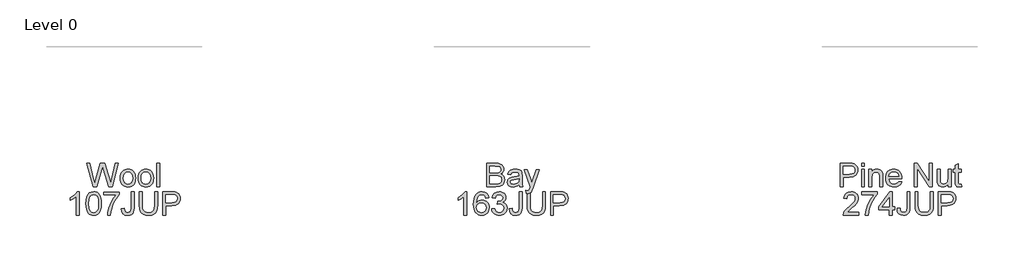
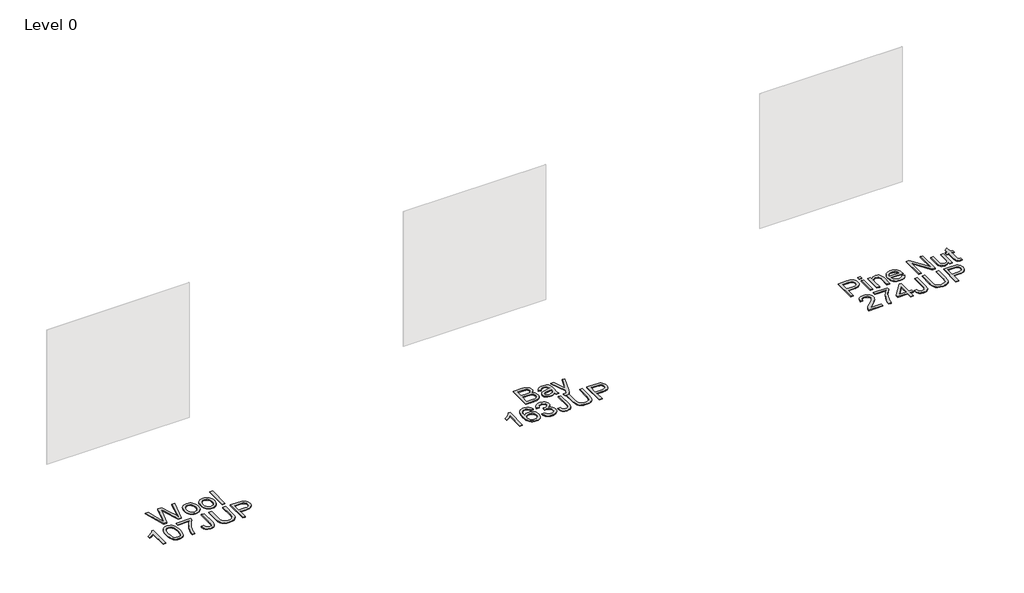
# One storey, part 25 of 37: 3 proxies.
"""IFC4 building model written with IfcOpenShell, lengths in millimetres."""

import ifcopenshell
import ifcopenshell.guid

model = None  # the IFC model being written
_history = None  # IfcOwnerHistory: only IFC2X3 demands one
_inside = {}  # id of a spatial element -> (the spatial element, [elements in it])
_under = {}  # id of a project, library or spatial element -> (it, [spatial elements below it])
_declared = {}  # id of a project -> (the project, [libraries it declares])
_typed = {}  # id of a type object -> (the type object, [elements of that type])
_made_of = {}  # id of a material, layer set ... -> (it, [elements and type objects made of it])


def new_model(schema):
    """Start an empty IFC model of exactly this schema.

    Asked for "IFC4X3", IfcOpenShell would pick the latest addendum, in which some entities
    have other attributes; the version numbers below select the first issue.
    IFC2X3 requires an IfcOwnerHistory on every rooted entity: one is made here for all.
    """
    global model, _history
    if schema == "IFC4X3":
        model = ifcopenshell.file(schema_version=(4, 3, 0, 0))
    else:
        model = ifcopenshell.file(schema=schema)
    _inside.clear()
    _under.clear()
    _declared.clear()
    _typed.clear()
    _made_of.clear()
    _history = None
    if model.schema == "IFC2X3":
        org = make("IfcOrganization", Name="unknown")
        user = make(
            "IfcPersonAndOrganization",
            ThePerson=make("IfcPerson", FamilyName="unknown"),
            TheOrganization=org,
        )
        app = make(
            "IfcApplication",
            ApplicationDeveloper=org,
            Version="unknown",
            ApplicationFullName="unknown",
            ApplicationIdentifier="unknown",
        )
        _history = make(
            "IfcOwnerHistory",
            OwningUser=user,
            OwningApplication=app,
            ChangeAction="ADDED",
            CreationDate=0,
        )
    return model


def make(cls, **values):
    """One entity of the class cls with the attributes given. An attribute that is None is left unset."""
    return model.create_entity(
        cls, **{name: value for name, value in values.items() if value is not None}
    )


def rooted(cls, **values):
    """An entity with a GlobalId (a new one), such as an element, a storey or a relation."""
    return make(cls, GlobalId=ifcopenshell.guid.new(), OwnerHistory=_history, **values)


def si_unit(unit_type, name, prefix=None):
    """IfcSIUnit, for example si_unit("LENGTHUNIT", "METRE", prefix="MILLI")."""
    return make("IfcSIUnit", UnitType=unit_type, Prefix=prefix, Name=name)


def assignment(units):
    """IfcUnitAssignment: the units of a project."""
    return None if units is None else make("IfcUnitAssignment", Units=units)


def point(xyz):
    """IfcCartesianPoint."""
    return None if xyz is None else make("IfcCartesianPoint", Coordinates=xyz)


def direction(xyz):
    """IfcDirection."""
    return None if xyz is None else make("IfcDirection", DirectionRatios=xyz)


def frame(location, z_axis=None, x_axis=None):
    """IfcAxis2Placement3D, a coordinate frame: its origin and axes. An axis left out is left unset."""
    return make(
        "IfcAxis2Placement3D",
        Location=point(location),
        Axis=direction(z_axis),
        RefDirection=direction(x_axis),
    )


def origin():
    """The frame at (0, 0, 0) with its axes left unset."""
    return frame((0.0, 0.0, 0.0))


def origin_with_axes():
    """The frame at (0, 0, 0) with the z axis (0, 0, 1) and the x axis (1, 0, 0) written out."""
    return frame((0.0, 0.0, 0.0), z_axis=(0.0, 0.0, 1.0), x_axis=(1.0, 0.0, 0.0))


def place(relative_to, where):
    """IfcLocalPlacement: puts the frame where relative to a parent placement (None: the world)."""
    return make(
        "IfcLocalPlacement", PlacementRelTo=relative_to, RelativePlacement=where
    )


def context(
    kind, dimensions, precision=None, world=None, true_north=None, identifier=None
):
    """IfcGeometricRepresentationContext, for example the 3D "Model" context."""
    return make(
        "IfcGeometricRepresentationContext",
        ContextIdentifier=identifier,
        ContextType=kind,
        CoordinateSpaceDimension=dimensions,
        Precision=precision,
        WorldCoordinateSystem=world,
        TrueNorth=true_north,
    )


def project(units=None, contexts=None):
    """IfcProject with its units and contexts."""
    return rooted(
        "IfcProject",
        Name="project",
        RepresentationContexts=contexts,
        UnitsInContext=assignment(units),
    )


def spatial(cls, under=None, at=None, **own):
    """A site, building, storey or space (cls), placed at a placement, below another one or the project."""
    s = rooted(cls, ObjectPlacement=at, **own)
    if under is not None:
        _under.setdefault(under.id(), (under, []))[1].append(s)
    return s


def polyline(points):
    """IfcPolyline through the points."""
    return make("IfcPolyline", Points=[point(p) for p in points])


def outline(outer, holes=None, kind="AREA"):
    """IfcArbitraryClosedProfileDef: a profile drawn as a closed curve; with holes, ...WithVoids."""
    if holes is None:
        return make("IfcArbitraryClosedProfileDef", ProfileType=kind, OuterCurve=outer)
    return make(
        "IfcArbitraryProfileDefWithVoids",
        ProfileType=kind,
        OuterCurve=outer,
        InnerCurves=holes,
    )


def extrude(swept, where, along, depth):
    """IfcExtrudedAreaSolid: the profile swept, set in the frame where, extruded along a direction by depth."""
    return make(
        "IfcExtrudedAreaSolid",
        SweptArea=swept,
        Position=where,
        ExtrudedDirection=direction(along),
        Depth=depth,
    )


def shape(context_of_items, identifier, shape_type, items):
    """IfcShapeRepresentation: the items that make up one representation, for example the "Body"."""
    return make(
        "IfcShapeRepresentation",
        ContextOfItems=context_of_items,
        RepresentationIdentifier=identifier,
        RepresentationType=shape_type,
        Items=items,
    )


def made_of(thing, what):
    """Note that an element or type object is made of a material, layer set ...; save() writes the relation."""
    if what is not None:
        _made_of.setdefault(what.id(), (what, []))[1].append(thing)
    return thing


def element(
    cls,
    number,
    at=None,
    inside=None,
    cuts=None,
    type_object=None,
    material=None,
    context=None,
    identifier="Body",
    shape_type=None,
    held_by="IfcProductDefinitionShape",
    body=None,
    shapes=None,
    **own,
):
    """One element of the class cls, such as IfcWall. Its Tag is "e" and its number.

    at: its placement. inside: the storey or other place that contains it. cuts: it is an
    opening in that element (IfcRelVoidsElement). A single representation is given by context,
    identifier, shape_type and body (its items); several are given by shapes. held_by: the class
    of the entity that holds the representations. save() writes the other relations.
    """
    e = rooted(cls, Tag="e%d" % number, ObjectPlacement=at, **own)
    if body is not None:
        shapes = [shape(context, identifier, shape_type, body)]
    if shapes is not None:
        e.Representation = make(held_by, Representations=shapes)
    if inside is not None:
        _inside.setdefault(inside.id(), (inside, []))[1].append(e)
    if cuts is not None:
        rooted(
            "IfcRelVoidsElement", RelatingBuildingElement=cuts, RelatedOpeningElement=e
        )
    if type_object is not None:
        _typed.setdefault(type_object.id(), (type_object, []))[1].append(e)
    return made_of(e, material)


def aggregate(whole, parts):
    """IfcRelAggregates: a whole, such as a stair, and the parts it consists of."""
    return rooted("IfcRelAggregates", RelatingObject=whole, RelatedObjects=parts)


def save(model, path):
    """Write the relations noted so far, then the file.

    IfcRelAggregates (storeys below a building ...), IfcRelContainedInSpatialStructure (elements
    in a storey), IfcRelDefinesByType, IfcRelAssociatesMaterial and IfcRelDeclares: one each for
    every whole, place, type object, material and project.
    """
    for whole, parts in _under.values():
        aggregate(whole, parts)
    for where, things in _inside.values():
        rooted(
            "IfcRelContainedInSpatialStructure",
            RelatedElements=things,
            RelatingStructure=where,
        )
    for kind, things in _typed.values():
        rooted("IfcRelDefinesByType", RelatedObjects=things, RelatingType=kind)
    for what, things in _made_of.values():
        rooted("IfcRelAssociatesMaterial", RelatedObjects=things, RelatingMaterial=what)
    for by, libraries in _declared.values():
        rooted("IfcRelDeclares", RelatingContext=by, RelatedDefinitions=libraries)
    model.write(path)


model = new_model("IFC4")

# Units and contexts
model_context = context("Model", 3, world=origin())
ifc_project = project(units=[si_unit("LENGTHUNIT", "METRE", prefix="MILLI")], contexts=[model_context])

# Site, building, storey
site = spatial("IfcSite", under=ifc_project)
building = spatial("IfcBuilding", under=site)
storey = spatial("IfcBuildingStorey", under=building, Name="Level 0", Elevation=0.0)

# Proxies
placement = place(None, origin())
element("IfcBuildingElementProxy", 1, Name="300mm Arial", ObjectType="300mm Arial", at=placement, inside=storey, context=model_context, shape_type="SweptSolid", body=[
    extrude(outline(polyline([(18148.8656037, -26963.860494), (18066.680766, -26662.4915635), (18105.5291047, -26662.4915635), (18153.2066113, -26860.5592297), (18167.9218911, -26921.7012173), (18183.6672405, -26867.622564), (18243.4112765, -26662.4915635), (18299.4029162, -26662.4915635), (18342.8129916, -26811.189466), (18361.4094265, -26866.3717653), (18375.1130308, -26921.7012173), (18389.3868522, -26862.3250633), (18437.5058172, -26662.4915635), (18476.3541558, -26662.4915635), (18394.0957417, -26963.860494), (18353.8494515, -26963.860494), (18281.5974276, -26731.359073), (18271.5174609, -26698.9118811), (18260.1866955, -26737.9809489), (18194.3358183, -26963.860494), (18148.8656037, -26963.860494)])), origin_with_axes(), (0.0, 0.0, 1.0), 10.0),
    extrude(outline(polyline([(18499.8986035, -26853.2015898), (18501.9357501, -26824.5389839), (18508.0471897, -26799.8403064), (18518.2329225, -26779.1055575), (18532.4929483, -26762.334737), (18546.8495432, -26751.6155754), (18562.6960601, -26743.9590314), (18580.0324991, -26739.3651049), (18598.8588602, -26737.8337961), (18619.6418937, -26739.698498), (18638.4337659, -26745.2926036), (18655.2344767, -26754.6161129), (18670.0440263, -26767.669026), (18682.1312491, -26784.0098843), (18690.7649797, -26803.1972296), (18695.945218, -26825.2310619), (18697.6719641, -26850.1113811), (18694.6185436, -26888.1687735), (18685.4582819, -26917.1394806), (18670.4578936, -26938.8353213), (18649.884093, -26955.0681143), (18625.4475314, -26965.1940662), (18598.8588602, -26968.5693835), (18577.7723241, -26966.7115794), (18558.805708, -26961.1381672), (18541.9590119, -26951.8491468), (18527.2322358, -26938.8445183), (18515.2737717, -26922.3450108), (18506.7320116, -26902.5713536), (18501.6069556, -26879.5235466), (18499.8986035, -26853.2015898)]), holes=[polyline([(18537.5697198, -26853.1280134), (18541.9291215, -26887.2214773), (18555.0073264, -26911.5108861), (18574.6890132, -26926.0514219), (18598.8588602, -26930.8982672), (18622.9183427, -26926.0238308), (18642.5632413, -26911.4005215), (18655.6414462, -26886.789216), (18660.0008478, -26851.950791), (18655.613855, -26818.8506085), (18642.4528767, -26794.8922936), (18622.780387, -26780.3517577), (18598.8588602, -26775.5049125), (18574.6890132, -26780.3333636), (18555.0073264, -26794.8187172), (18541.9291215, -26819.0529436), (18537.5697198, -26853.1280134)])]), origin_with_axes(), (0.0, 0.0, 1.0), 10.0),
    extrude(outline(polyline([(18730.6341909, -26853.2015898), (18732.6713375, -26824.5389839), (18738.7827771, -26799.8403064), (18748.9685099, -26779.1055575), (18763.2285357, -26762.334737), (18777.5851306, -26751.6155754), (18793.4316475, -26743.9590314), (18810.7680865, -26739.3651049), (18829.5944476, -26737.8337961), (18850.3774811, -26739.698498), (18869.1693532, -26745.2926036), (18885.9700641, -26754.6161129), (18900.7796137, -26767.669026), (18912.8668365, -26784.0098843), (18921.5005671, -26803.1972296), (18926.6808054, -26825.2310619), (18928.4075515, -26850.1113811), (18925.354131, -26888.1687735), (18916.1938693, -26917.1394806), (18901.1934809, -26938.8353213), (18880.6196803, -26955.0681143), (18856.1831188, -26965.1940662), (18829.5944476, -26968.5693835), (18808.5079115, -26966.7115794), (18789.5412954, -26961.1381672), (18772.6945993, -26951.8491468), (18757.9678232, -26938.8445183), (18746.0093591, -26922.3450108), (18737.467599, -26902.5713536), (18732.3425429, -26879.5235466), (18730.6341909, -26853.2015898)]), holes=[polyline([(18768.3053072, -26853.1280134), (18772.6647089, -26887.2214773), (18785.7429138, -26911.5108861), (18805.4246005, -26926.0514219), (18829.5944476, -26930.8982672), (18853.6539301, -26926.0238308), (18873.2988286, -26911.4005215), (18886.3770336, -26886.789216), (18890.7364352, -26851.950791), (18886.3494424, -26818.8506085), (18873.188464, -26794.8922936), (18853.5159744, -26780.3517577), (18829.5944476, -26775.5049125), (18805.4246005, -26780.3333636), (18785.7429138, -26794.8187172), (18772.6647089, -26819.0529436), (18768.3053072, -26853.1280134)])]), origin_with_axes(), (0.0, 0.0, 1.0), 10.0),
    extrude(outline(polyline([(18970.7875574, -26963.860494), (18970.7875574, -26662.4915635), (19008.4586737, -26662.4915635), (19008.4586737, -26963.860494), (18970.7875574, -26963.860494)])), origin_with_axes(), (0.0, 0.0, 1.0), 10.0),
    extrude(outline(polyline([(17967.7940857, -27329.7849475), (17930.1229694, -27329.7849475), (17930.1229694, -27094.9290818), (17894.4384159, -27120.3497277), (17854.7807368, -27139.3692268), (17854.7807368, -27103.7582497), (17884.3676463, -27087.6634124), (17909.9998243, -27068.5151545), (17930.2057429, -27048.1528861), (17943.513874, -27028.4160171), (17967.7940857, -27028.4160171), (17967.7940857, -27329.7849475)])), origin_with_axes(), (0.0, 0.0, 1.0), 10.0),
    extrude(outline(polyline([(18057.2629869, -27181.5285035), (18060.031299, -27133.2899768), (18068.336235, -27094.8187172), (18082.0950216, -27065.5261133), (18101.2248854, -27044.8235541), (18125.863782, -27032.5179013), (18156.1496672, -27028.4160171), (18179.3630211, -27030.8440382), (18200.1483539, -27038.1281017), (18217.5307781, -27049.983099), (18230.5354067, -27066.1239216), (18240.3578559, -27086.4126136), (18248.1937424, -27110.7112194), (18253.3256963, -27141.5673217), (18255.0363476, -27181.5285035), (18252.2956267, -27229.4911186), (18244.0734641, -27267.8704077), (18230.3974509, -27297.1906027), (18211.2951783, -27317.9759355), (18186.6010994, -27330.3643617), (18156.1496672, -27334.4938371), (18135.4011227, -27332.7004123), (18117.007023, -27327.3201381), (18100.967368, -27318.3530145), (18087.2821578, -27305.7990414), (18074.1487705, -27283.1053209), (18064.7677796, -27254.828991), (18059.1391851, -27220.9700519), (18057.2629869, -27181.5285035)]), holes=[polyline([(18094.9341033, -27181.4549271), (18099.3486872, -27240.7115194), (18104.8669171, -27260.9795181), (18112.592439, -27275.0073184), (18132.310914, -27291.3688702), (18156.1496672, -27296.8227207), (18179.9884205, -27291.3504761), (18199.7068955, -27274.933742), (18207.4324174, -27260.8829491), (18212.9506473, -27240.6195489), (18217.3652312, -27181.4549271), (18213.0978001, -27123.5319069), (18207.7635112, -27103.3305869), (18200.2955067, -27088.9693935), (18180.6138199, -27071.8076984), (18155.7082089, -27066.0871334), (18132.126973, -27071.1271167), (18113.1810502, -27086.2470667), (18105.1980109, -27101.8820515), (18099.49584, -27122.9616898), (18094.9341033, -27181.4549271)])]), origin_with_axes(), (0.0, 0.0, 1.0), 10.0),
    extrude(outline(polyline([(18287.9985743, -27070.7960229), (18287.9985743, -27033.1249066), (18485.7719349, -27033.1249066), (18485.7719349, -27063.5855358), (18457.582977, -27099.2608923), (18429.6699307, -27144.6299393), (18405.0494281, -27195.5540045), (18386.7381018, -27247.8944154), (18377.7617811, -27287.0554538), (18372.758586, -27329.7849475), (18335.0874697, -27329.7849475), (18339.1617628, -27290.9550029), (18350.0602669, -27244.8042066), (18367.4886764, -27195.8850983), (18391.1526858, -27148.7502177), (18418.7806236, -27106.1402856), (18448.1008186, -27070.7960229), (18287.9985743, -27070.7960229)])), origin_with_axes(), (0.0, 0.0, 1.0), 10.0),
    extrude(outline(polyline([(18514.0252722, -27245.1720886), (18551.6963885, -27240.3160463), (18555.6143317, -27267.7048608), (18564.5722583, -27284.8297677), (18578.2574685, -27293.8244825), (18596.3572627, -27296.8227207), (18610.2723991, -27295.1212665), (18622.1457905, -27290.0169038), (18631.3060522, -27281.9786822), (18637.0817995, -27271.4756513), (18641.1652897, -27234.1356288), (18641.1652897, -27028.4160171), (18678.836406, -27028.4160171), (18678.836406, -27233.4734412), (18676.5647347, -27267.0150821), (18669.7497207, -27292.0034666), (18657.995891, -27310.2596106), (18640.9077723, -27323.60453), (18619.4510549, -27331.7715103), (18594.5914291, -27334.4938371), (18559.7713983, -27328.8744396), (18545.8240721, -27321.8501927), (18534.1852055, -27312.0162471), (18525.061732, -27299.409391), (18518.6605853, -27284.0664126), (18514.0252722, -27245.1720886)])), origin_with_axes(), (0.0, 0.0, 1.0), 10.0),
    extrude(outline(polyline([(18942.5342201, -27028.4160171), (18980.2053364, -27028.4160171), (18980.2053364, -27202.277048), (18977.6485566, -27242.9923878), (18969.978217, -27274.3451308), (18955.6492133, -27298.533372), (18933.1164411, -27317.7552063), (18902.3247181, -27330.3091794), (18863.218862, -27334.4938371), (18824.9683315, -27330.8518053), (18794.3881407, -27319.92571), (18771.4690924, -27302.0926303), (18756.2019896, -27277.7296452), (18747.621142, -27245.052527), (18744.7608595, -27202.277048), (18744.7608595, -27028.4160171), (18782.4319758, -27028.4160171), (18782.4319758, -27200.9526728), (18784.2897799, -27234.8070134), (18789.8631921, -27258.3790523), (18799.9615529, -27274.7038158), (18815.3942026, -27286.8163305), (18835.5173477, -27294.3211232), (18859.6871948, -27296.8227207), (18898.0021046, -27291.8747079), (18912.3449039, -27285.6896919), (18923.4779328, -27277.0306694), (18931.8150585, -27264.8537754), (18937.7701483, -27248.1151446), (18942.5342201, -27200.9526728), (18942.5342201, -27028.4160171)])), origin_with_axes(), (0.0, 0.0, 1.0), 10.0),
    extrude(outline(polyline([(19046.12979, -27329.7849475), (19046.12979, -27028.4160171), (19157.8187637, -27028.4160171), (19202.8475199, -27031.2854966), (19222.9246798, -27036.6473767), (19239.4517784, -27045.375377), (19252.7599096, -27057.8649708), (19263.1801671, -27074.5116311), (19269.9124076, -27094.1473326), (19272.1564878, -27115.6040499), (19270.6412738, -27134.1039158), (19266.0956319, -27151.1230566), (19258.5195621, -27166.6614723), (19247.9130643, -27180.7191631), (19233.3518351, -27192.3718253), (19213.9115709, -27200.6951554), (19189.5922718, -27205.6891535), (19160.3939377, -27207.3538195), (19083.8009063, -27207.3538195), (19083.8009063, -27329.7849475), (19046.12979, -27329.7849475)]), holes=[polyline([(19083.8009063, -27169.6827032), (19162.6012297, -27169.6827032), (19196.0049148, -27166.2246125), (19218.0778345, -27155.8503402), (19230.3834873, -27139.2036799), (19234.4853715, -27116.9284251), (19232.0665474, -27100.0058533), (19224.810075, -27085.7320319), (19213.6172653, -27074.9898777), (19199.3894292, -27068.6623073), (19161.7183129, -27066.0871334), (19083.8009063, -27066.0871334), (19083.8009063, -27169.6827032)])]), origin_with_axes(), (0.0, 0.0, 1.0), 10.0),
])
element("IfcBuildingElementProxy", 2, Name="300mm Arial", ObjectType="300mm Arial", at=placement, inside=storey, context=model_context, shape_type="SweptSolid", body=[
    extrude(outline(polyline([(23226.7830103, -26963.860494), (23226.7830103, -26662.4915635), (23341.782922, -26662.4915635), (23373.4115765, -26664.7080526), (23398.1056555, -26671.3575196), (23417.0331841, -26682.6055116), (23431.3621878, -26698.6175755), (23440.3844938, -26717.4531336), (23443.3919291, -26737.1716086), (23440.8627404, -26755.317388), (23433.2751742, -26772.3779155), (23420.5740483, -26787.3047274), (23402.7041804, -26799.0493601), (23424.0505332, -26810.1961846), (23439.8234737, -26827.1555446), (23449.5631496, -26848.8054), (23452.8097082, -26874.0237108), (23450.5932191, -26895.0389697), (23443.9437521, -26914.5275184), (23434.0201353, -26931.1006023), (23421.981197, -26943.3694668), (23407.238326, -26952.253817), (23389.2029112, -26958.6733578), (23340.9000052, -26963.860494), (23226.7830103, -26963.860494)]), holes=[polyline([(23264.4541266, -26784.9226915), (23333.2480597, -26784.9226915), (23373.4207736, -26781.68533), (23387.4830629, -26776.1027207), (23397.5906207, -26767.7426024), (23403.6882648, -26756.7337336), (23405.7208128, -26743.2048733), (23403.8262205, -26730.071486), (23398.1424437, -26718.630356), (23388.9269997, -26709.7000206), (23376.437406, -26704.0990172), (23328.0241354, -26700.1626798), (23264.4541266, -26700.1626798), (23264.4541266, -26784.9226915)]), polyline([(23264.4541266, -26926.1893777), (23341.7093456, -26926.1893777), (23369.6683772, -26924.7178497), (23393.3231895, -26916.5140812), (23408.9949625, -26899.7754504), (23413.6026845, -26887.9480443), (23415.1385919, -26874.3915928), (23413.3359701, -26858.6462434), (23407.9281047, -26845.1081859), (23398.4827345, -26834.5223815), (23384.5675981, -26827.6337912), (23364.8583202, -26823.8538037), (23338.0305257, -26822.5938078), (23264.4541266, -26822.5938078), (23264.4541266, -26926.1893777)])]), origin_with_axes(), (0.0, 0.0, 1.0), 10.0),
    extrude(outline(polyline([(23641.1652897, -26935.6071568), (23623.1666631, -26951.0398064), (23604.6346076, -26961.1381672), (23585.1460589, -26966.7115794), (23564.2779527, -26968.5693835), (23532.796451, -26964.0996173), (23509.5739, -26950.6903186), (23495.2540934, -26930.3280501), (23490.4808245, -26904.9993748), (23492.2834462, -26889.3827841), (23497.6913116, -26875.2009331), (23506.0330358, -26863.0608273), (23516.6372343, -26853.5694718), (23543.0143734, -26841.2086368), (23575.6087181, -26835.5432541), (23614.125963, -26829.5835657), (23640.9445605, -26822.5938078), (23641.1652897, -26814.2060983), (23638.5717216, -26797.3938912), (23630.7910174, -26786.3942195), (23613.3901991, -26778.2272392), (23589.1467756, -26775.5049125), (23566.7059739, -26777.3167313), (23551.0342009, -26782.7521878), (23540.3472289, -26792.8045633), (23532.8608303, -26808.4671392), (23495.189714, -26803.7582497), (23501.7288165, -26783.156858), (23511.4868864, -26766.9700502), (23525.3744317, -26754.590821), (23544.3019604, -26745.4121652), (23567.4509349, -26739.7283884), (23594.0028179, -26737.8337961), (23619.469449, -26739.5076592), (23639.6569735, -26744.5292485), (23654.8780911, -26752.0800264), (23665.4455014, -26761.3414556), (23672.4536534, -26772.7917827), (23676.996996, -26786.9092543), (23678.836406, -26819.8714811), (23678.836406, -26866.7396473), (23680.7493924, -26932.1858542), (23688.2541851, -26963.860494), (23650.5830688, -26963.860494), (23641.1652897, -26935.6071568)]), holes=[polyline([(23641.1652897, -26860.2649241), (23580.3911841, -26871.8164188), (23547.9807803, -26877.9232599), (23533.3022887, -26887.8560738), (23528.1519408, -26902.3506244), (23530.957041, -26913.5526311), (23539.3723416, -26922.7312869), (23553.2139017, -26928.8565221), (23572.2977802, -26930.8982672), (23592.5312899, -26928.64499), (23610.4103549, -26921.8851583), (23624.9049055, -26911.9247533), (23634.9848722, -26900.069756), (23639.4546384, -26887.8560738), (23640.9445605, -26870.933502), (23641.1652897, -26860.2649241)])]), origin_with_axes(), (0.0, 0.0, 1.0), 10.0),
    extrude(outline(polyline([(23730.6341909, -27048.6205057), (23725.9253014, -27012.3473409), (23745.0551651, -27015.6582789), (23762.9342301, -27011.5012124), (23773.8971135, -26999.9129295), (23784.1978094, -26972.1746271), (23787.1408654, -26963.0511536), (23707.0897432, -26742.5426857), (23746.8209987, -26742.5426857), (23789.2745809, -26865.4152721), (23804.0634372, -26914.5643066), (23818.8522934, -26871.1542312), (23862.483098, -26742.5426857), (23901.9200479, -26742.5426857), (23824.8855581, -26969.1579947), (23804.8727775, -27018.3070293), (23794.627264, -27033.9971964), (23783.020587, -27044.8681093), (23769.5377119, -27051.2140737), (23753.6636038, -27053.3293952), (23730.6341909, -27048.6205057)])), origin_with_axes(), (0.0, 0.0, 1.0), 10.0),
    extrude(outline(polyline([(22967.7940857, -27329.7849475), (22930.1229694, -27329.7849475), (22930.1229694, -27094.9290818), (22894.4384159, -27120.3497277), (22854.7807368, -27139.3692268), (22854.7807368, -27103.7582497), (22884.3676463, -27087.6634124), (22909.9998243, -27068.5151545), (22930.2057429, -27048.1528861), (22943.513874, -27028.4160171), (22967.7940857, -27028.4160171), (22967.7940857, -27329.7849475)])), origin_with_axes(), (0.0, 0.0, 1.0), 10.0),
    extrude(outline(polyline([(23250.327458, -27108.4671392), (23212.6563417, -27113.1760288), (23206.5862888, -27094.5060175), (23198.3825203, -27081.7589064), (23181.2944016, -27070.0050766), (23160.6378276, -27066.0871334), (23143.1266446, -27068.3680017), (23126.6455312, -27075.2106069), (23112.4912715, -27089.622384), (23100.9305798, -27109.4604206), (23093.1222844, -27137.5206198), (23090.2252137, -27176.5988847), (23105.3359667, -27158.9681401), (23123.4449579, -27146.5429257), (23143.5405119, -27139.1760888), (23164.6109531, -27136.7204764), (23182.7107473, -27138.3989381), (23199.4125899, -27143.4343229), (23214.7164809, -27151.8266309), (23228.6224203, -27163.5758621), (23240.1785135, -27177.9830407), (23248.4328657, -27194.349191), (23253.3854771, -27212.6743129), (23255.0363476, -27232.9584064), (23251.9277447, -27259.9333537), (23242.6019361, -27284.9401323), (23227.831474, -27306.1485293), (23208.3889106, -27321.7283318), (23185.1571626, -27331.3024607), (23159.0191468, -27334.4938371), (23136.5622503, -27332.3785156), (23116.280456, -27326.0325512), (23098.1737641, -27315.4559438), (23082.2421744, -27300.6486935), (23069.2536407, -27280.9854009), (23059.9761167, -27255.8406665), (23054.4096022, -27225.2144904), (23052.5540974, -27189.1068726), (23054.6142366, -27148.6260575), (23060.7946541, -27114.0773396), (23071.09535, -27085.4607189), (23085.5163242, -27062.7761954), (23101.1467104, -27047.7436174), (23119.2694972, -27037.0060617), (23139.8846845, -27030.5635282), (23162.9922724, -27028.4160171), (23196.0464696, -27033.7319119), (23222.5155792, -27049.6795964), (23241.0568317, -27075.0082718), (23250.327458, -27108.4671392)]), holes=[polyline([(23090.2252137, -27232.3697952), (23092.4049145, -27249.0624407), (23098.944017, -27265.0009282), (23109.0975601, -27278.7045325), (23122.1205827, -27288.6925287), (23137.8383409, -27294.7901727), (23156.0760908, -27296.8227207), (23180.9357167, -27292.6104719), (23200.4794477, -27279.9737254), (23213.1437854, -27260.1080976), (23217.3652312, -27234.2092052), (23213.1989676, -27209.3495793), (23200.7001769, -27190.3944595), (23180.8253521, -27178.3923095), (23154.5309865, -27174.3915928), (23129.7081488, -27178.3923095), (23108.9504073, -27190.3944595), (23094.9065121, -27208.8897269), (23090.2252137, -27232.3697952)])]), origin_with_axes(), (0.0, 0.0, 1.0), 10.0),
    extrude(outline(polyline([(23287.9985743, -27249.7338254), (23325.6696906, -27245.0249358), (23334.1033854, -27268.6981422), (23346.4550234, -27284.6826149), (23363.3316099, -27293.7876943), (23385.3401502, -27296.8227207), (23411.1654663, -27292.6472601), (23431.1046704, -27280.1208782), (23443.8517816, -27261.4324728), (23448.1008186, -27238.7709419), (23443.8885698, -27217.2590422), (23431.2518232, -27199.8122386), (23412.1219595, -27188.2515469), (23388.430359, -27184.397983), (23362.0164317, -27188.5182614), (23366.2102865, -27150.8471451), (23372.2435512, -27151.2886035), (23394.8131116, -27148.5846708), (23414.9914391, -27140.4728728), (23429.2284723, -27126.7508744), (23433.97415, -27107.2163404), (23430.5344534, -27090.9467592), (23420.2153634, -27077.7489926), (23404.470014, -27069.0025982), (23384.7515391, -27066.0871334), (23364.9962759, -27069.0301893), (23348.8462563, -27077.8593572), (23337.0556384, -27092.574637), (23330.3785802, -27113.1760288), (23292.7074639, -27108.4671392), (23303.799106, -27074.6403898), (23323.5359751, -27049.3852908), (23350.5385135, -27033.6583355), (23383.4271639, -27028.4160171), (23407.1095673, -27031.0003881), (23428.8605903, -27038.7535011), (23447.1995077, -27050.9855775), (23460.6455947, -27067.0068384), (23468.8953484, -27085.4653175), (23471.6452663, -27105.0090485), (23469.0333041, -27123.2192072), (23461.1974176, -27139.7371088), (23448.2479714, -27153.8085951), (23430.2953301, -27164.6795081), (23453.8765659, -27174.2076518), (23471.3509607, -27190.4312477), (23482.1666914, -27212.4673793), (23485.7719349, -27239.4331295), (23483.9693131, -27258.5445992), (23478.5614478, -27276.1477526), (23469.5483389, -27292.2425899), (23456.9299865, -27306.829111), (23441.5571176, -27318.9324287), (23424.2804594, -27327.5776555), (23405.1000119, -27332.7647917), (23384.0157751, -27334.4938371), (23364.9594877, -27333.0177105), (23347.5954575, -27328.589331), (23331.9236845, -27321.2086985), (23317.9441687, -27310.875813), (23306.2225287, -27298.1976797), (23297.3243829, -27283.781304), (23291.2497315, -27267.6266859), (23287.9985743, -27249.7338254)])), origin_with_axes(), (0.0, 0.0, 1.0), 10.0),
    extrude(outline(polyline([(23514.0252722, -27245.1720886), (23551.6963885, -27240.3160463), (23555.6143317, -27267.7048608), (23564.5722583, -27284.8297677), (23578.2574685, -27293.8244825), (23596.3572627, -27296.8227207), (23610.2723991, -27295.1212665), (23622.1457905, -27290.0169038), (23631.3060522, -27281.9786822), (23637.0817995, -27271.4756513), (23641.1652897, -27234.1356288), (23641.1652897, -27028.4160171), (23678.836406, -27028.4160171), (23678.836406, -27233.4734412), (23676.5647347, -27267.0150821), (23669.7497207, -27292.0034666), (23657.995891, -27310.2596106), (23640.9077723, -27323.60453), (23619.4510549, -27331.7715103), (23594.5914291, -27334.4938371), (23559.7713983, -27328.8744396), (23545.8240721, -27321.8501927), (23534.1852055, -27312.0162471), (23525.061732, -27299.409391), (23518.6605853, -27284.0664126), (23514.0252722, -27245.1720886)])), origin_with_axes(), (0.0, 0.0, 1.0), 10.0),
    extrude(outline(polyline([(23942.5342201, -27028.4160171), (23980.2053364, -27028.4160171), (23980.2053364, -27202.277048), (23977.6485566, -27242.9923878), (23969.978217, -27274.3451308), (23955.6492133, -27298.533372), (23933.1164411, -27317.7552063), (23902.3247181, -27330.3091794), (23863.218862, -27334.4938371), (23824.9683315, -27330.8518053), (23794.3881407, -27319.92571), (23771.4690924, -27302.0926303), (23756.2019896, -27277.7296452), (23747.621142, -27245.052527), (23744.7608595, -27202.277048), (23744.7608595, -27028.4160171), (23782.4319758, -27028.4160171), (23782.4319758, -27200.9526728), (23784.2897799, -27234.8070134), (23789.8631921, -27258.3790523), (23799.9615529, -27274.7038158), (23815.3942026, -27286.8163305), (23835.5173477, -27294.3211232), (23859.6871948, -27296.8227207), (23898.0021046, -27291.8747079), (23912.3449039, -27285.6896919), (23923.4779328, -27277.0306694), (23931.8150585, -27264.8537754), (23937.7701483, -27248.1151446), (23942.5342201, -27200.9526728), (23942.5342201, -27028.4160171)])), origin_with_axes(), (0.0, 0.0, 1.0), 10.0),
    extrude(outline(polyline([(24046.12979, -27329.7849475), (24046.12979, -27028.4160171), (24157.8187637, -27028.4160171), (24202.8475199, -27031.2854966), (24222.9246798, -27036.6473767), (24239.4517784, -27045.375377), (24252.7599096, -27057.8649708), (24263.1801671, -27074.5116311), (24269.9124076, -27094.1473326), (24272.1564878, -27115.6040499), (24270.6412738, -27134.1039158), (24266.0956319, -27151.1230566), (24258.5195621, -27166.6614723), (24247.9130643, -27180.7191631), (24233.3518351, -27192.3718253), (24213.9115709, -27200.6951554), (24189.5922718, -27205.6891535), (24160.3939377, -27207.3538195), (24083.8009063, -27207.3538195), (24083.8009063, -27329.7849475), (24046.12979, -27329.7849475)]), holes=[polyline([(24083.8009063, -27169.6827032), (24162.6012297, -27169.6827032), (24196.0049148, -27166.2246125), (24218.0778345, -27155.8503402), (24230.3834873, -27139.2036799), (24234.4853715, -27116.9284251), (24232.0665474, -27100.0058533), (24224.810075, -27085.7320319), (24213.6172653, -27074.9898777), (24199.3894292, -27068.6623073), (24161.7183129, -27066.0871334), (24083.8009063, -27066.0871334), (24083.8009063, -27169.6827032)])]), origin_with_axes(), (0.0, 0.0, 1.0), 10.0),
])
element("IfcBuildingElementProxy", 3, Name="300mm Arial", ObjectType="300mm Arial", at=placement, inside=storey, context=model_context, shape_type="SweptSolid", body=[
    extrude(outline(polyline([(27781.792949, -26962.860494), (27781.792949, -26661.4915635), (27893.4819227, -26661.4915635), (27938.5106789, -26664.3610431), (27958.5878388, -26669.7229232), (27975.1149374, -26678.4509235), (27988.4230686, -26690.9405172), (27998.8433261, -26707.5871775), (28005.5755666, -26727.222879), (28007.8196468, -26748.6795964), (28006.3044328, -26767.1794622), (28001.7587909, -26784.198603), (27994.1827211, -26799.7370188), (27983.5762233, -26813.7947095), (27969.0149941, -26825.4473717), (27949.5747299, -26833.7707019), (27925.2554308, -26838.7647), (27896.0570967, -26840.429366), (27819.4640653, -26840.429366), (27819.4640653, -26962.860494), (27781.792949, -26962.860494)]), holes=[polyline([(27819.4640653, -26802.7582497), (27898.2643886, -26802.7582497), (27931.6680738, -26799.3001589), (27953.7409935, -26788.9258867), (27966.0466462, -26772.2792264), (27970.1485305, -26750.0039716), (27967.7297064, -26733.0813998), (27960.473234, -26718.8075784), (27949.2804243, -26708.0654241), (27935.0525881, -26701.7378538), (27897.3814718, -26699.1626798), (27819.4640653, -26699.1626798), (27819.4640653, -26802.7582497)])]), origin_with_axes(), (0.0, 0.0, 1.0), 10.0),
    extrude(outline(polyline([(28054.9085422, -26699.1626798), (28054.9085422, -26661.4915635), (28092.5796585, -26661.4915635), (28092.5796585, -26699.1626798), (28054.9085422, -26699.1626798)])), origin_with_axes(), (0.0, 0.0, 1.0), 10.0),
    extrude(outline(polyline([(28054.9085422, -26962.860494), (28054.9085422, -26741.5426857), (28092.5796585, -26741.5426857), (28092.5796585, -26962.860494), (28054.9085422, -26962.860494)])), origin_with_axes(), (0.0, 0.0, 1.0), 10.0),
    extrude(outline(polyline([(28149.0863329, -26962.860494), (28149.0863329, -26741.5426857), (28186.7574492, -26741.5426857), (28186.7574492, -26772.4447733), (28199.8448512, -26756.8649708), (28215.5626095, -26745.7365404), (28233.910724, -26739.0594822), (28254.8891948, -26736.8337961), (28273.4580385, -26738.6272209), (28290.4633837, -26744.0074951), (28304.6452346, -26752.303234), (28314.7435954, -26762.8430532), (28326.0375726, -26790.5445674), (28328.0241354, -26826.964885), (28328.0241354, -26962.860494), (28290.3530191, -26962.860494), (28290.3530191, -26832.0416565), (28286.0120115, -26798.7115477), (28280.006338, -26788.7879309), (28270.6713323, -26781.0900002), (28258.7059705, -26776.1511844), (28244.8092281, -26774.5049125), (28222.7455054, -26778.2021265), (28203.9375384, -26789.2937687), (28196.4212494, -26798.3482643), (28191.0524715, -26810.7228949), (28186.7574492, -26845.4325611), (28186.7574492, -26962.860494), (28149.0863329, -26962.860494)])), origin_with_axes(), (0.0, 0.0, 1.0), 10.0),
    extrude(outline(polyline([(28534.7738167, -26896.9360404), (28571.709169, -26901.64493), (28558.4010378, -26929.4752029), (28537.1650497, -26950.2789297), (28508.4794511, -26963.2467701), (28472.8224887, -26967.5693835), (28449.4481864, -26965.7046817), (28428.621467, -26960.1105761), (28410.3423303, -26950.7870668), (28394.6107765, -26937.7341537), (28381.9602344, -26921.3151204), (28372.9241329, -26901.8932503), (28367.502472, -26879.4685435), (28365.6952517, -26854.0409998), (28367.5208661, -26827.7512327), (28372.9977093, -26804.5792656), (28382.1257813, -26784.5250983), (28394.9050821, -26767.5887309), (28410.5952492, -26754.133447), (28428.4559201, -26744.5225298), (28448.4870947, -26738.7559796), (28470.6887731, -26736.8337961), (28492.1753809, -26738.751381), (28511.606448, -26744.5041357), (28528.9819745, -26754.0920602), (28544.3019604, -26767.5151545), (28556.8076489, -26784.4147337), (28565.7402836, -26804.4321128), (28571.0998644, -26827.5672917), (28572.8863914, -26853.8202706), (28572.6656622, -26863.9738137), (28403.366368, -26863.9738137), (28409.8870764, -26892.1719686), (28425.0346175, -26912.902119), (28446.8960051, -26925.6492302), (28473.5582527, -26929.8982672), (28493.6078214, -26927.9300985), (28510.493605, -26922.0255925), (28524.2156034, -26911.8168672), (28534.7738167, -26896.9360404)]), holes=[polyline([(28403.366368, -26826.3026974), (28535.2152751, -26826.3026974), (28530.1201094, -26806.4002814), (28520.1321133, -26792.1632482), (28498.1695582, -26778.9194964), (28470.5416203, -26774.5049125), (28445.1485656, -26778.0273826), (28424.1517007, -26788.5947929), (28409.5559826, -26805.0667092), (28403.366368, -26826.3026974)])]), origin_with_axes(), (0.0, 0.0, 1.0), 10.0),
    extrude(outline(polyline([(28732.9886357, -26962.860494), (28732.9886357, -26661.4915635), (28773.3085024, -26661.4915635), (28930.7619963, -26900.2469784), (28930.7619963, -26661.4915635), (28968.4331126, -26661.4915635), (28968.4331126, -26962.860494), (28928.1132459, -26962.860494), (28770.659752, -26724.0315027), (28770.659752, -26962.860494), (28732.9886357, -26962.860494)])), origin_with_axes(), (0.0, 0.0, 1.0), 10.0),
    extrude(outline(polyline([(29170.9153627, -26962.860494), (29170.9153627, -26924.8214957), (29157.2853348, -26943.5236966), (29141.4112267, -26956.8824116), (29123.2930385, -26964.8976405), (29102.93077, -26967.5693835), (29084.5826555, -26965.6931853), (29067.5037339, -26960.0645908), (29053.1747302, -26951.6033049), (29043.0763694, -26941.2290327), (29031.8559686, -26913.4907302), (29029.6486766, -26878.4683643), (29029.6486766, -26741.5426857), (29067.3197929, -26741.5426857), (29067.3197929, -26860.7364521), (29069.6006613, -26899.1433324), (29075.0913, -26911.9548229), (29084.4998821, -26921.6944987), (29097.201008, -26927.8473251), (29112.5692783, -26929.8982672), (29128.8204654, -26927.8013398), (29144.0231889, -26921.5105577), (29156.5587679, -26911.605335), (29164.8085216, -26898.6650858), (29169.3886525, -26880.9423707), (29170.9153627, -26856.6897502), (29170.9153627, -26741.5426857), (29208.586479, -26741.5426857), (29208.586479, -26962.860494), (29170.9153627, -26962.860494)])), origin_with_axes(), (0.0, 0.0, 1.0), 10.0),
    extrude(outline(polyline([(29340.4353861, -26931.4433716), (29345.1442757, -26963.96414), (29316.9645148, -26967.5693835), (29298.8831148, -26966.005885), (29285.4002396, -26961.3153896), (29275.872096, -26954.0865084), (29269.6548902, -26944.9078526), (29266.2335877, -26929.1441091), (29265.0931535, -26902.1599648), (29265.0931535, -26779.213802), (29236.8398163, -26779.213802), (29236.8398163, -26741.5426857), (29265.0931535, -26741.5426857), (29265.0931535, -26687.758338), (29302.7642698, -26665.6118419), (29302.7642698, -26741.5426857), (29340.4353861, -26741.5426857), (29340.4353861, -26779.213802), (29302.7642698, -26779.213802), (29302.7642698, -26901.0563188), (29304.7508326, -26920.4804881), (29311.1887675, -26927.3598814), (29324.0278491, -26929.8982672), (29340.4353861, -26931.4433716)])), origin_with_axes(), (0.0, 0.0, 1.0), 10.0),
    extrude(outline(polyline([(28019.5918706, -27291.1138312), (28019.5918706, -27328.7849475), (27821.81851, -27328.7849475), (27825.865212, -27302.8124787), (27835.1542324, -27282.5145896), (27848.7474721, -27262.8237058), (27868.4107647, -27242.213117), (27895.9099439, -27219.156113), (27936.5609043, -27183.0484951), (27960.9514806, -27156.3954446), (27973.1467687, -27134.7639833), (27977.2118648, -27113.7211331), (27973.376695, -27094.8579838), (27961.8711856, -27079.1770138), (27944.1852587, -27068.6096035), (27921.8088363, -27065.0871334), (27898.3103739, -27068.52683), (27880.0542299, -27078.84592), (27868.272809, -27095.2350629), (27864.1985159, -27116.8849183), (27826.5273996, -27112.1760288), (27835.6600701, -27075.7373171), (27844.2064287, -27061.2013798), (27855.4061362, -27049.1210548), (27869.0016752, -27039.6251008), (27884.7355283, -27032.8422765), (27922.6181767, -27027.4160171), (27942.8080005, -27028.9243332), (27960.7767367, -27033.4492818), (27976.5243853, -27040.9908627), (27990.0509464, -27051.549076), (28000.9149616, -27064.3421723), (28008.6749724, -27078.5884026), (28013.3309789, -27094.2877667), (28014.8829811, -27111.4402648), (28013.209118, -27129.4572855), (28008.1875288, -27147.1616065), (27999.2755875, -27165.1694302), (27985.9306681, -27184.0969588), (27964.6578917, -27206.6941104), (27931.9623794, -27235.7108027), (27888.6258804, -27271.9471793), (27871.6297322, -27291.1138312), (28019.5918706, -27291.1138312)])), origin_with_axes(), (0.0, 0.0, 1.0), 10.0),
    extrude(outline(polyline([(28057.2629869, -27069.7960229), (28057.2629869, -27032.1249066), (28255.0363476, -27032.1249066), (28255.0363476, -27062.5855358), (28226.8473897, -27098.2608923), (28198.9343433, -27143.6299393), (28174.3138408, -27194.5540045), (28156.0025144, -27246.8944154), (28147.0261938, -27286.0554538), (28142.0229986, -27328.7849475), (28104.3518823, -27328.7849475), (28108.4261754, -27289.9550029), (28119.3246795, -27243.8042066), (28136.7530891, -27194.8850983), (28160.4170984, -27147.7502177), (28188.0450362, -27105.1402856), (28217.3652312, -27069.7960229), (28057.2629869, -27069.7960229)])), origin_with_axes(), (0.0, 0.0, 1.0), 10.0),
    extrude(outline(polyline([(28410.4297023, -27328.7849475), (28410.4297023, -27258.1516044), (28273.8719057, -27258.1516044), (28273.8719057, -27220.4804881), (28419.8474814, -27032.1249066), (28448.1008186, -27032.1249066), (28448.1008186, -27220.4804881), (28485.7719349, -27220.4804881), (28485.7719349, -27258.1516044), (28448.1008186, -27258.1516044), (28448.1008186, -27328.7849475), (28410.4297023, -27328.7849475)]), holes=[polyline([(28410.4297023, -27220.4804881), (28410.4297023, -27104.0826249), (28320.2250371, -27220.4804881), (28410.4297023, -27220.4804881)])]), origin_with_axes(), (0.0, 0.0, 1.0), 10.0),
    extrude(outline(polyline([(28514.0252722, -27244.1720886), (28551.6963885, -27239.3160463), (28555.6143317, -27266.7048608), (28564.5722583, -27283.8297677), (28578.2574685, -27292.8244825), (28596.3572627, -27295.8227207), (28610.2723991, -27294.1212665), (28622.1457905, -27289.0169038), (28631.3060522, -27280.9786822), (28637.0817995, -27270.4756513), (28641.1652897, -27233.1356288), (28641.1652897, -27027.4160171), (28678.836406, -27027.4160171), (28678.836406, -27232.4734412), (28676.5647347, -27266.0150821), (28669.7497207, -27291.0034666), (28657.995891, -27309.2596106), (28640.9077723, -27322.60453), (28619.4510549, -27330.7715103), (28594.5914291, -27333.4938371), (28559.7713983, -27327.8744396), (28545.8240721, -27320.8501927), (28534.1852055, -27311.0162471), (28525.061732, -27298.409391), (28518.6605853, -27283.0664126), (28514.0252722, -27244.1720886)])), origin_with_axes(), (0.0, 0.0, 1.0), 10.0),
    extrude(outline(polyline([(28942.5342201, -27027.4160171), (28980.2053364, -27027.4160171), (28980.2053364, -27201.277048), (28977.6485566, -27241.9923878), (28969.978217, -27273.3451308), (28955.6492133, -27297.533372), (28933.1164411, -27316.7552063), (28902.3247181, -27329.3091794), (28863.218862, -27333.4938371), (28824.9683315, -27329.8518053), (28794.3881407, -27318.92571), (28771.4690924, -27301.0926303), (28756.2019896, -27276.7296452), (28747.621142, -27244.052527), (28744.7608595, -27201.277048), (28744.7608595, -27027.4160171), (28782.4319758, -27027.4160171), (28782.4319758, -27199.9526728), (28784.2897799, -27233.8070134), (28789.8631921, -27257.3790523), (28799.9615529, -27273.7038158), (28815.3942026, -27285.8163305), (28835.5173477, -27293.3211232), (28859.6871948, -27295.8227207), (28898.0021046, -27290.8747079), (28912.3449039, -27284.6896919), (28923.4779328, -27276.0306694), (28931.8150585, -27263.8537754), (28937.7701483, -27247.1151446), (28942.5342201, -27199.9526728), (28942.5342201, -27027.4160171)])), origin_with_axes(), (0.0, 0.0, 1.0), 10.0),
    extrude(outline(polyline([(29046.12979, -27328.7849475), (29046.12979, -27027.4160171), (29157.8187637, -27027.4160171), (29202.8475199, -27030.2854966), (29222.9246798, -27035.6473767), (29239.4517784, -27044.375377), (29252.7599096, -27056.8649708), (29263.1801671, -27073.5116311), (29269.9124076, -27093.1473326), (29272.1564878, -27114.6040499), (29270.6412738, -27133.1039158), (29266.0956319, -27150.1230566), (29258.5195621, -27165.6614723), (29247.9130643, -27179.7191631), (29233.3518351, -27191.3718253), (29213.9115709, -27199.6951554), (29189.5922718, -27204.6891535), (29160.3939377, -27206.3538195), (29083.8009063, -27206.3538195), (29083.8009063, -27328.7849475), (29046.12979, -27328.7849475)]), holes=[polyline([(29083.8009063, -27168.6827032), (29162.6012297, -27168.6827032), (29196.0049148, -27165.2246125), (29218.0778345, -27154.8503402), (29230.3834873, -27138.2036799), (29234.4853715, -27115.9284251), (29232.0665474, -27099.0058533), (29224.810075, -27084.7320319), (29213.6172653, -27073.9898777), (29199.3894292, -27067.6623073), (29161.7183129, -27065.0871334), (29083.8009063, -27065.0871334), (29083.8009063, -27168.6827032)])]), origin_with_axes(), (0.0, 0.0, 1.0), 10.0),
])

save(model, "model.ifc")
